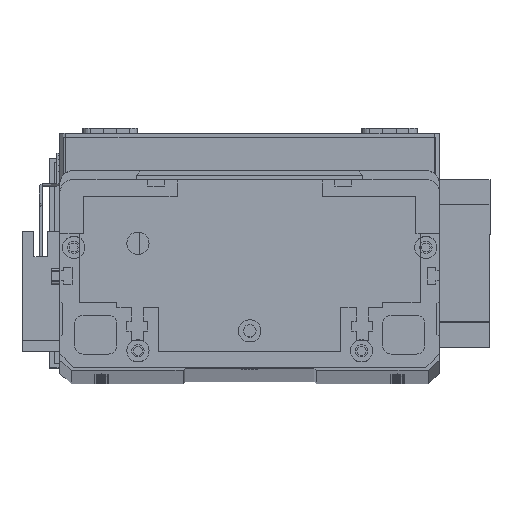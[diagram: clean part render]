
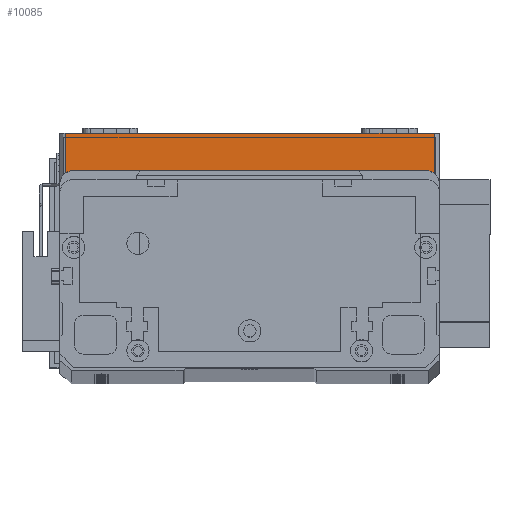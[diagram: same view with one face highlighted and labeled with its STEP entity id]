
A CAD part, top view. The second image highlights one B-rep face of the part: STEP entity #10085.
In plain terms, the highlighted planar face has unit normal (0, 0, 1) as drawn and (0, -1, 0) by its records, which use the part's own axes.
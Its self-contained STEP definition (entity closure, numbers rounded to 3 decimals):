
#856 = DIRECTION ( 'NONE',  ( 0., 0., 1. ) ) ;
#1111 = VECTOR ( 'NONE', #22776, 1000. ) ;
#1595 = DIRECTION ( 'NONE',  ( 1., 0., 0. ) ) ;
#1631 = ORIENTED_EDGE ( 'NONE', *, *, #6095, .T. ) ;
#3281 = CARTESIAN_POINT ( 'NONE',  ( 134., 0., 19.5 ) ) ;
#5404 = CARTESIAN_POINT ( 'NONE',  ( 0., 0., 19.5 ) ) ;
#5556 = DIRECTION ( 'NONE',  ( 1., 0., 0. ) ) ;
#6095 = EDGE_CURVE ( 'NONE', #23947, #29582, #26406, .T. ) ;
#7236 = ORIENTED_EDGE ( 'NONE', *, *, #18485, .T. ) ;
#7948 = CARTESIAN_POINT ( 'NONE',  ( 134., 0., 19.5 ) ) ;
#8436 = EDGE_LOOP ( 'NONE', ( #22025, #1631, #7236, #24435 ) ) ;
#8888 = CARTESIAN_POINT ( 'NONE',  ( 0., 0., 19.5 ) ) ;
#9386 = CARTESIAN_POINT ( 'NONE',  ( 2., 0., 0. ) ) ;
#9440 = LINE ( 'NONE', #10352, #21326 ) ;
#10085 = ADVANCED_FACE ( 'NONE', ( #15456 ), #12598, .F. ) ;
#10352 = CARTESIAN_POINT ( 'NONE',  ( 0., 0., 0. ) ) ;
#12230 = CARTESIAN_POINT ( 'NONE',  ( 134., 0., 0. ) ) ;
#12598 = PLANE ( 'NONE',  #20305 ) ;
#14966 = DIRECTION ( 'NONE',  ( 0., 0., 1. ) ) ;
#15456 = FACE_OUTER_BOUND ( 'NONE', #8436, .T. ) ;
#17844 = LINE ( 'NONE', #8888, #24928 ) ;
#18485 = EDGE_CURVE ( 'NONE', #29582, #22522, #9440, .T. ) ;
#20305 = AXIS2_PLACEMENT_3D ( 'NONE', #5404, #29213, #14966 ) ;
#20371 = CARTESIAN_POINT ( 'NONE',  ( 2., 0., 19.5 ) ) ;
#20559 = VECTOR ( 'NONE', #856, 1000. ) ;
#21326 = VECTOR ( 'NONE', #5556, 1000. ) ;
#22025 = ORIENTED_EDGE ( 'NONE', *, *, #24593, .F. ) ;
#22522 = VERTEX_POINT ( 'NONE', #12230 ) ;
#22776 = DIRECTION ( 'NONE',  ( 0., 0., -1. ) ) ;
#23947 = VERTEX_POINT ( 'NONE', #25342 ) ;
#24435 = ORIENTED_EDGE ( 'NONE', *, *, #29259, .T. ) ;
#24593 = EDGE_CURVE ( 'NONE', #23947, #30548, #17844, .T. ) ;
#24928 = VECTOR ( 'NONE', #1595, 1000. ) ;
#25342 = CARTESIAN_POINT ( 'NONE',  ( 2., 0., 19.5 ) ) ;
#26406 = LINE ( 'NONE', #20371, #1111 ) ;
#29213 = DIRECTION ( 'NONE',  ( 0., 1., 0. ) ) ;
#29259 = EDGE_CURVE ( 'NONE', #22522, #30548, #29867, .T. ) ;
#29582 = VERTEX_POINT ( 'NONE', #9386 ) ;
#29867 = LINE ( 'NONE', #7948, #20559 ) ;
#30548 = VERTEX_POINT ( 'NONE', #3281 ) ;
